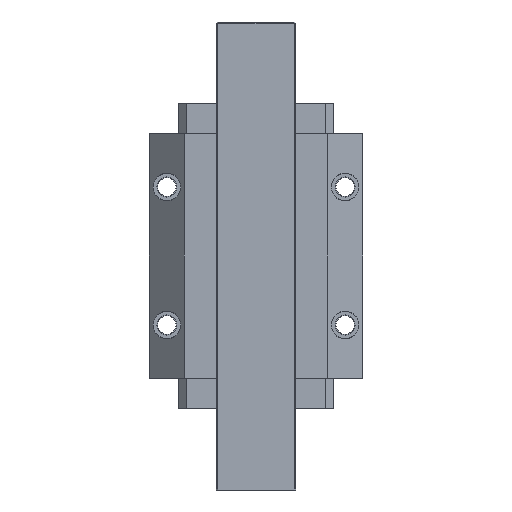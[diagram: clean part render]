
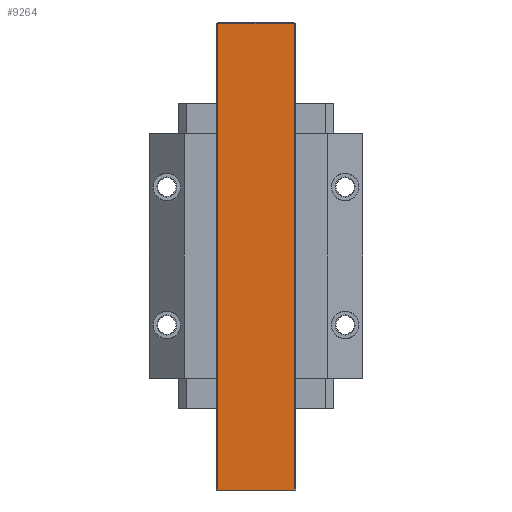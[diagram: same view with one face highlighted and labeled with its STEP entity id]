
A CAD part, front view. The second image highlights one B-rep face of the part: STEP entity #9264.
In plain terms, the highlighted planar face has unit normal (0, -1, 0).
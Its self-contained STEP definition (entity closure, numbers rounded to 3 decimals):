
#8225=DIRECTION('',(1.,0.,0.));
#8226=VECTOR('',#8225,60.6);
#8227=CARTESIAN_POINT('',(-30.3,-36.5,-186.5));
#8228=LINE('',#8227,#8226);
#8498=DIRECTION('',(1.,0.,0.));
#8499=VECTOR('',#8498,60.6);
#8500=CARTESIAN_POINT('',(-30.3,-36.5,185.634));
#8501=LINE('',#8500,#8499);
#8502=DIRECTION('',(0.,0.,1.));
#8503=VECTOR('',#8502,372.134);
#8504=CARTESIAN_POINT('',(-30.3,-36.5,-186.5));
#8505=LINE('',#8504,#8503);
#8510=DIRECTION('',(0.,0.,1.));
#8511=VECTOR('',#8510,372.134);
#8512=CARTESIAN_POINT('',(30.3,-36.5,-186.5));
#8513=LINE('',#8512,#8511);
#8696=CARTESIAN_POINT('',(-30.3,-36.5,-186.5));
#8697=VERTEX_POINT('',#8696);
#8698=CARTESIAN_POINT('',(30.3,-36.5,-186.5));
#8699=VERTEX_POINT('',#8698);
#8760=CARTESIAN_POINT('',(30.3,-36.5,185.634));
#8761=VERTEX_POINT('',#8760);
#8764=CARTESIAN_POINT('',(-30.3,-36.5,185.634));
#8765=VERTEX_POINT('',#8764);
#9252=CARTESIAN_POINT('',(-30.3,-36.5,-186.5));
#9253=DIRECTION('',(0.,-1.,0.));
#9254=DIRECTION('',(1.,0.,0.));
#9255=AXIS2_PLACEMENT_3D('',#9252,#9253,#9254);
#9256=PLANE('',#9255);
#9257=ORIENTED_EDGE('',*,*,#9243,.T.);
#9259=ORIENTED_EDGE('',*,*,#9258,.F.);
#9260=ORIENTED_EDGE('',*,*,#8845,.F.);
#9261=ORIENTED_EDGE('',*,*,#9218,.T.);
#9262=EDGE_LOOP('',(#9257,#9259,#9260,#9261));
#9263=FACE_OUTER_BOUND('',#9262,.F.);
#8845=EDGE_CURVE('',#8697,#8699,#8228,.T.);
#9218=EDGE_CURVE('',#8697,#8765,#8505,.T.);
#9243=EDGE_CURVE('',#8765,#8761,#8501,.T.);
#9258=EDGE_CURVE('',#8699,#8761,#8513,.T.);
#9264=ADVANCED_FACE('',(#9263),#9256,.T.);
